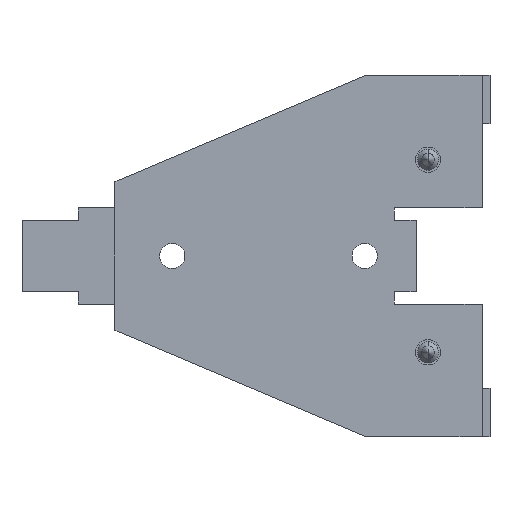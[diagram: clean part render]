
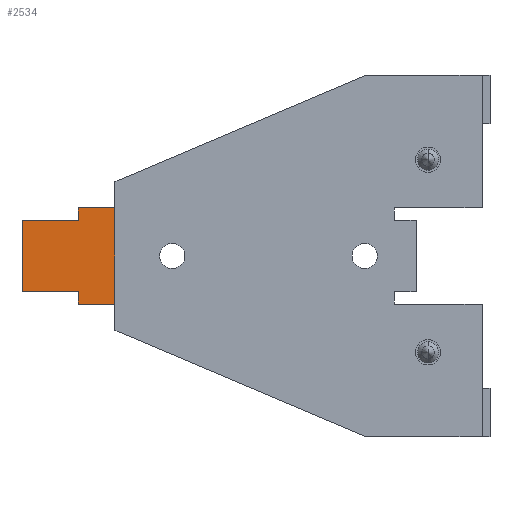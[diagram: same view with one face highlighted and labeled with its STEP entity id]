
A CAD part, left-side view. The second image highlights one B-rep face of the part: STEP entity #2534.
In plain terms, the highlighted planar face has unit normal (-1, 0, 0).
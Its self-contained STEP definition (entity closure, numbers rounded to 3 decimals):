
#8 = EDGE_CURVE ( 'NONE', #1619, #1616, #441, .T. ) ;
#136 = EDGE_CURVE ( 'NONE', #1366, #934, #2242, .T. ) ;
#433 = VECTOR ( 'NONE', #1576, 1000. ) ;
#441 = LINE ( 'NONE', #1582, #433 ) ;
#665 = ORIENTED_EDGE ( 'NONE', *, *, #1970, .T. ) ;
#666 = ORIENTED_EDGE ( 'NONE', *, *, #136, .T. ) ;
#667 = ORIENTED_EDGE ( 'NONE', *, *, #2049, .T. ) ;
#668 = ORIENTED_EDGE ( 'NONE', *, *, #2041, .F. ) ;
#669 = ORIENTED_EDGE ( 'NONE', *, *, #1965, .T. ) ;
#670 = ORIENTED_EDGE ( 'NONE', *, *, #1948, .T. ) ;
#671 = ORIENTED_EDGE ( 'NONE', *, *, #8, .F. ) ;
#672 = ORIENTED_EDGE ( 'NONE', *, *, #2069, .F. ) ;
#859 = CARTESIAN_POINT ( 'NONE',  ( 1.5, 52., 8. ) ) ;
#861 = CARTESIAN_POINT ( 'NONE',  ( 1.5, 58.1, -8. ) ) ;
#862 = CARTESIAN_POINT ( 'NONE',  ( 1.5, 52., -8. ) ) ;
#920 = CARTESIAN_POINT ( 'NONE',  ( 1.5, 58.1, 5.9 ) ) ;
#932 = VERTEX_POINT ( 'NONE', #1050 ) ;
#934 = VERTEX_POINT ( 'NONE', #1047 ) ;
#940 = VERTEX_POINT ( 'NONE', #1040 ) ;
#977 = CARTESIAN_POINT ( 'NONE',  ( 1.5, 58.1, 8. ) ) ;
#1040 = CARTESIAN_POINT ( 'NONE',  ( 1.5, 67.45, -5.9 ) ) ;
#1047 = CARTESIAN_POINT ( 'NONE',  ( 1.5, 67.45, 5.9 ) ) ;
#1050 = CARTESIAN_POINT ( 'NONE',  ( 1.5, 58.1, -5.9 ) ) ;
#1079 = VERTEX_POINT ( 'NONE', #977 ) ;
#1260 = DIRECTION ( 'NONE',  ( 0., 1., 0. ) ) ;
#1261 = CARTESIAN_POINT ( 'NONE',  ( 1.5, 67.45, 5.9 ) ) ;
#1366 = VERTEX_POINT ( 'NONE', #920 ) ;
#1576 = DIRECTION ( 'NONE',  ( 0., 0., -1. ) ) ;
#1582 = CARTESIAN_POINT ( 'NONE',  ( 1.5, 52., 30. ) ) ;
#1616 = VERTEX_POINT ( 'NONE', #862 ) ;
#1617 = VERTEX_POINT ( 'NONE', #861 ) ;
#1619 = VERTEX_POINT ( 'NONE', #859 ) ;
#1756 = AXIS2_PLACEMENT_3D ( 'NONE', #3695, #3701, #3702 ) ;
#1948 = EDGE_CURVE ( 'NONE', #1617, #1616, #4260, .T. ) ;
#1965 = EDGE_CURVE ( 'NONE', #932, #1617, #4286, .T. ) ;
#1970 = EDGE_CURVE ( 'NONE', #1079, #1366, #4294, .T. ) ;
#2041 = EDGE_CURVE ( 'NONE', #932, #940, #4394, .T. ) ;
#2049 = EDGE_CURVE ( 'NONE', #934, #940, #4403, .T. ) ;
#2069 = EDGE_CURVE ( 'NONE', #1079, #1619, #4434, .T. ) ;
#2242 = LINE ( 'NONE', #1261, #2243 ) ;
#2243 = VECTOR ( 'NONE', #1260, 1000. ) ;
#2534 = ADVANCED_FACE ( 'NONE', ( #4647 ), #3692, .F. ) ;
#2732 = EDGE_LOOP ( 'NONE', ( #665, #666, #667, #668, #669, #670, #671, #672 ) ) ;
#2985 = CARTESIAN_POINT ( 'NONE',  ( 1.5, 58.1, -8. ) ) ;
#2992 = DIRECTION ( 'NONE',  ( 0., -1., 0. ) ) ;
#3021 = CARTESIAN_POINT ( 'NONE',  ( 1.5, 58.1, 30. ) ) ;
#3022 = DIRECTION ( 'NONE',  ( 0., 0., -1. ) ) ;
#3029 = CARTESIAN_POINT ( 'NONE',  ( 1.5, 58.1, 30. ) ) ;
#3030 = DIRECTION ( 'NONE',  ( 0., 0., -1. ) ) ;
#3142 = CARTESIAN_POINT ( 'NONE',  ( 1.5, 67.45, -5.9 ) ) ;
#3143 = DIRECTION ( 'NONE',  ( 0., 1., 0. ) ) ;
#3152 = CARTESIAN_POINT ( 'NONE',  ( 1.5, 67.45, 15.37 ) ) ;
#3153 = DIRECTION ( 'NONE',  ( 0., 0., -1. ) ) ;
#3185 = CARTESIAN_POINT ( 'NONE',  ( 1.5, 52., 8. ) ) ;
#3186 = DIRECTION ( 'NONE',  ( 0., -1., 0. ) ) ;
#3692 = PLANE ( 'NONE',  #1756 ) ;
#3695 = CARTESIAN_POINT ( 'NONE',  ( 1.5, 58.1, 30. ) ) ;
#3701 = DIRECTION ( 'NONE',  ( 1., 0., 0. ) ) ;
#3702 = DIRECTION ( 'NONE',  ( 0., 0., -1. ) ) ;
#4260 = LINE ( 'NONE', #2985, #4262 ) ;
#4262 = VECTOR ( 'NONE', #2992, 1000. ) ;
#4286 = LINE ( 'NONE', #3021, #4287 ) ;
#4287 = VECTOR ( 'NONE', #3022, 1000. ) ;
#4294 = LINE ( 'NONE', #3029, #4295 ) ;
#4295 = VECTOR ( 'NONE', #3030, 1000. ) ;
#4394 = LINE ( 'NONE', #3142, #4395 ) ;
#4395 = VECTOR ( 'NONE', #3143, 1000. ) ;
#4403 = LINE ( 'NONE', #3152, #4404 ) ;
#4404 = VECTOR ( 'NONE', #3153, 1000. ) ;
#4434 = LINE ( 'NONE', #3185, #4435 ) ;
#4435 = VECTOR ( 'NONE', #3186, 1000. ) ;
#4647 = FACE_OUTER_BOUND ( 'NONE', #2732, .T. ) ;
